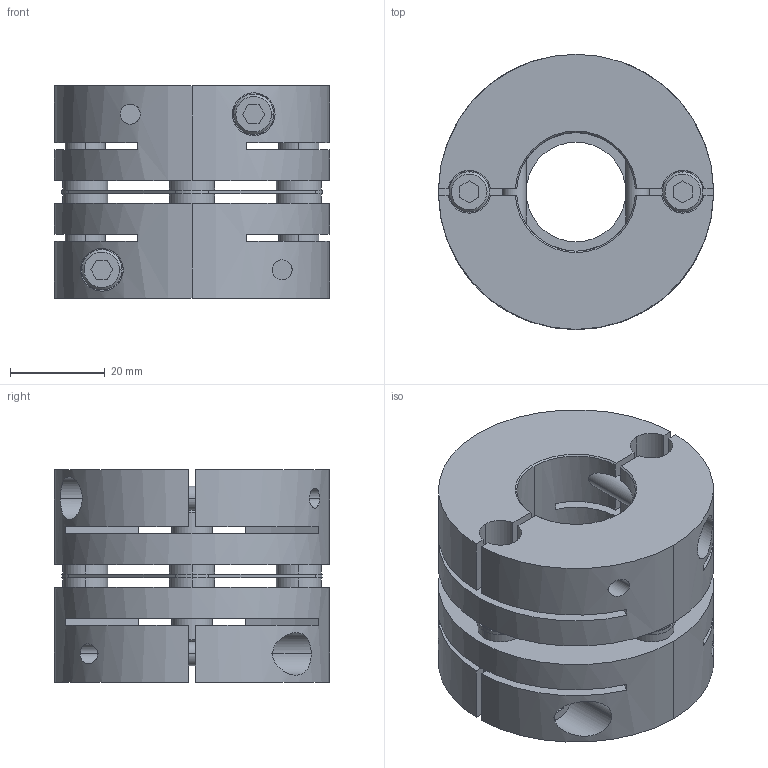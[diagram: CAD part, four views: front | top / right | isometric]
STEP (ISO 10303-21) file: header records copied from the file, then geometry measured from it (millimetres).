
FILE_DESCRIPTION((''),'2;1');
FILE_NAME('LAS-58C-25×25.stp','2015-10-15T14:57:04',(''),(''),'AutoCAD STEP 2000i','AutoCAD 2000i',', , ');
FILE_SCHEMA(('CONFIG_CONTROL_DESIGN'));
Length unit declared in the file: millimetre
Products named in the file (6): LAS-58C-12×19; 忣兜1; LA-5802-D19; LA-5802-D12-1; LA-5802-D12; LAS58-ITA
Assembly tree (5 placements, depth 2):
  LAS-58C-12×19
    忣兜1
    LA-5802-D19
    LA-5802-D12-1
    LA-5802-D12
    LAS58-ITA
Bounding box: 58 x 58 x 44.8 mm (x, y, z)
Volume: 77701.3 mm3; surface area: 32130.2 mm2
Topology: 1 solids, 1 shells, 238 faces, 636 edges, 416 vertices
Faces by surface type: plane 114, cylinder 96, cone 28
Entity records: 8507 total; most frequent: CARTESIAN_POINT 2190, DIRECTION 1322, ORIENTED_EDGE 1276, EDGE_CURVE 638, AXIS2_PLACEMENT_3D 484, VERTEX_POINT 416, VECTOR 354, LINE 354
